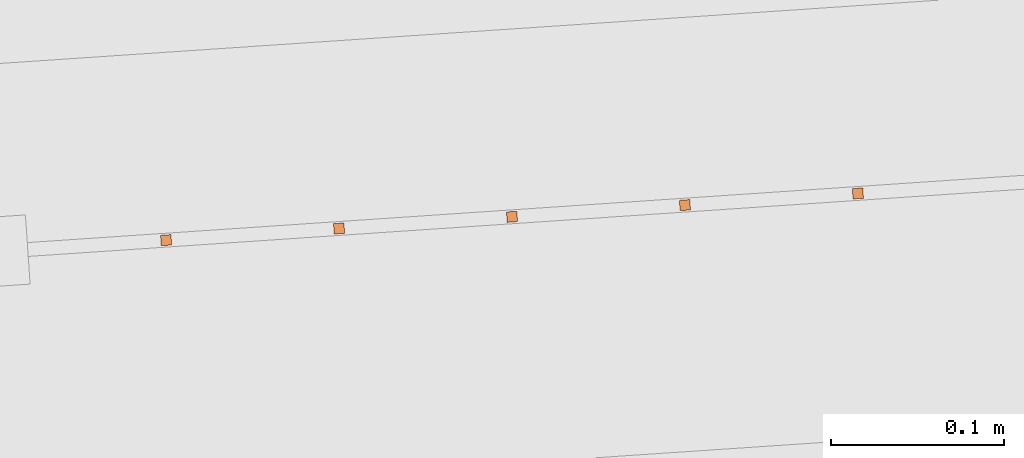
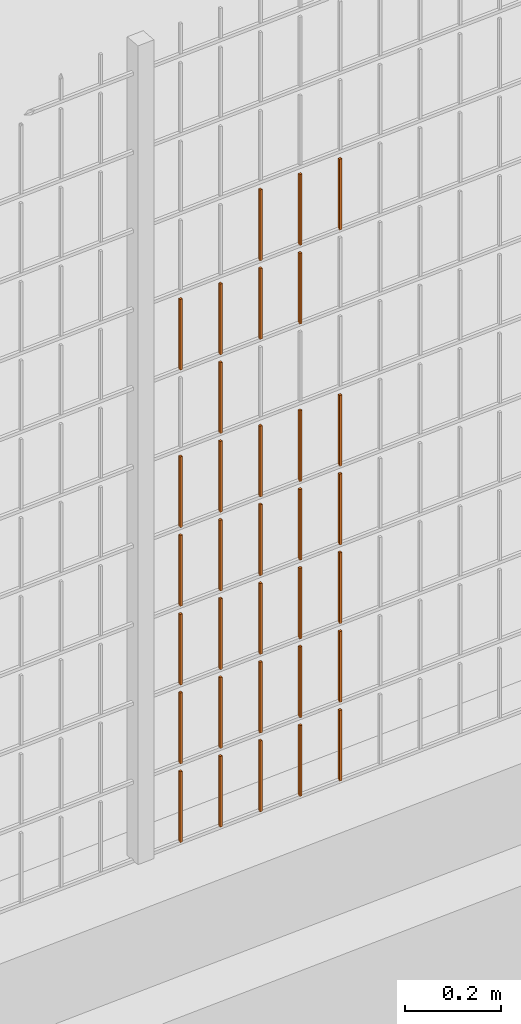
# One storey, part 283 of 1809: 33 proxies, 1 element without a shape of its own.
"""IFC2X3 building model written with IfcOpenShell, lengths in millimetres."""

from ifc_helpers import new_model, entity, si_unit, converted_unit, derived_unit, money_unit, direction, frame, origin_with_axes, place, context, subcontext, project, spatial, faceted_brep, source, transform, mapped, material, type_object, element, aggregate, save


model = new_model("IFC2X3")

# Units and contexts
model_context = context("Model", 3, precision=0.01, world=origin_with_axes(), true_north=direction((0.0, 1.0)))
body_context = subcontext(model_context, "Body", "Model", "MODEL_VIEW")
ifc_project = project(units=[si_unit("LENGTHUNIT", "METRE", prefix="MILLI"), si_unit("AREAUNIT", "SQUARE_METRE"), si_unit("VOLUMEUNIT", "CUBIC_METRE"), converted_unit("PLANEANGLEUNIT", "DEGREE", entity("IfcPlaneAngleMeasure", 0.0174532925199), si_unit("PLANEANGLEUNIT", "RADIAN"), dimensions=[0, 0, 0, 0, 0, 0, 0]), si_unit("SOLIDANGLEUNIT", "STERADIAN"), money_unit("EUR"), converted_unit("TIMEUNIT", "Year", entity("IfcTimeMeasure", 31556926.0), si_unit("TIMEUNIT", "SECOND"), dimensions=[0, 0, 1, 0, 0, 0, 0]), si_unit("MASSUNIT", "GRAM", prefix="KILO"), si_unit("THERMODYNAMICTEMPERATUREUNIT", "DEGREE_CELSIUS"), si_unit("LUMINOUSINTENSITYUNIT", "LUMEN"), si_unit("ENERGYUNIT", "JOULE", prefix="MEGA"), derived_unit("THERMALCONDUCTANCEUNIT", [(si_unit("POWERUNIT", "WATT"), 1), (si_unit("LENGTHUNIT", "METRE"), -1), (si_unit("THERMODYNAMICTEMPERATUREUNIT", "KELVIN"), -1)]), derived_unit("SPECIFICHEATCAPACITYUNIT", [(si_unit("ENERGYUNIT", "JOULE"), 1), (si_unit("MASSUNIT", "GRAM", prefix="KILO"), -1), (si_unit("THERMODYNAMICTEMPERATUREUNIT", "KELVIN"), -1)]), derived_unit("MASSDENSITYUNIT", [(si_unit("MASSUNIT", "GRAM", prefix="KILO"), 1), (si_unit("VOLUMEUNIT", "CUBIC_METRE"), -1)])], contexts=[model_context])

# Site, building, storey
site_placement = place(None, origin_with_axes())
site = spatial("IfcSite", under=ifc_project, at=site_placement, Name="Politse- ja Piirivalveameti ning Päästeameti ühishoone", CompositionType="ELEMENT")
building_placement = place(site_placement, origin_with_axes())
building = spatial("IfcBuilding", under=site, at=building_placement, Name="Politse- ja Piirivalveameti ning Päästeameti ühishoone", CompositionType="ELEMENT")
storey_placement = place(building_placement, origin_with_axes())
storey = spatial("IfcBuildingStorey", under=building, at=storey_placement, Name="Esimene korrus", CompositionType="ELEMENT", Elevation=0.0)

# Proxies
building_element_proxy_type_1 = type_object("IfcBuildingElementProxyType", Name="Railing Type", PredefinedType="NOTDEFINED")
proxy_1_placement = place(storey_placement, frame((89252.001212, -29183.4766571, 203.661247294), z_axis=(0.0, 0.0, 1.0), x_axis=(1.0, 0.0, 0.0)))
proxy_1 = element("IfcBuildingElementProxy", 1, at=proxy_1_placement, inside=storey, type_object=building_element_proxy_type_1, Name="PIIRDEAED")
ifc_material = material(Name="ET-03_Raud")
building_element_proxy_type_2 = type_object("IfcBuildingElementProxyType", Name="IfcBuildingElementProxy", PredefinedType="NOTDEFINED")
shared_shape_1 = source(origin_with_axes(), body_context, "Body", "Brep", [
    faceted_brep([(3.0, 3.0, -0.000752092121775), (-3.0, 3.0, -0.000752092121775), (-3.0, 3.0, 179.99926046), (3.0, 3.0, 179.99926046), (3.0, -3.0, 0.000752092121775), (-3.0, -3.0, 0.000752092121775), (-3.0, -3.0, 180.000764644), (3.0, -3.0, 180.000764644)], [[[0, 1, 2, 3]], [[0, 4, 5, 1]], [[1, 5, 6, 2]], [[3, 2, 6, 7]], [[4, 0, 3, 7]], [[5, 4, 7, 6]]]),
])
proxy_2_placement = place(proxy_1_placement, frame((-49214.5452357, -20622.0315633, 214.868314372), z_axis=(0.0, 0.0, 1.0), x_axis=(1.0, 0.0, 0.0)))
proxy_2 = element("IfcBuildingElementProxy", 2, at=proxy_2_placement, type_object=building_element_proxy_type_2, material=ifc_material, Name="BALUSTER - 001", context=body_context, shape_type="MappedRepresentation", body=[
    mapped(shared_shape_1, transform((0.0, 0.0, 0.0), x_axis=(-0.0673926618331, 0.997726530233, 0.0), y_axis=(-0.997726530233, -0.0673926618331, 0.0), z_axis=(0.0, 0.0, 1.0))),
])
proxy_3_placement = place(proxy_1_placement, frame((-49214.5452357, -20622.0315633, 414.868314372), z_axis=(0.0, 0.0, 1.0), x_axis=(1.0, 0.0, 0.0)))
proxy_3 = element("IfcBuildingElementProxy", 3, at=proxy_3_placement, type_object=building_element_proxy_type_2, material=ifc_material, Name="BALUSTER - 001", context=body_context, shape_type="MappedRepresentation", body=[
    mapped(shared_shape_1, transform((0.0, 0.0, 0.0), x_axis=(-0.0673926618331, 0.997726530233, 0.0), y_axis=(-0.997726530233, -0.0673926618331, 0.0), z_axis=(0.0, 0.0, 1.0))),
])
shared_shape_2 = source(origin_with_axes(), body_context, "Body", "Brep", [
    faceted_brep([(3.0, 3.0, -0.000752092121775), (-3.0, 3.0, -0.000752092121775), (-3.0, 3.0, 179.99926046), (3.0, 3.0, 179.99926046), (3.0, -3.0, 0.000752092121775), (-3.0, -3.0, 0.000752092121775), (-3.0, -3.0, 180.000764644), (3.0, -3.0, 180.000764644)], [[[0, 1, 2, 3]], [[0, 4, 5, 1]], [[1, 5, 6, 2]], [[3, 2, 6, 7]], [[4, 0, 3, 7]], [[5, 4, 7, 6]]]),
])
proxy_4_placement = place(proxy_1_placement, frame((-49214.5452357, -20622.0315633, 614.868314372), z_axis=(0.0, 0.0, 1.0), x_axis=(1.0, 0.0, 0.0)))
proxy_4 = element("IfcBuildingElementProxy", 4, at=proxy_4_placement, type_object=building_element_proxy_type_2, material=ifc_material, Name="BALUSTER - 001", context=body_context, shape_type="MappedRepresentation", body=[
    mapped(shared_shape_2, transform((0.0, 0.0, 0.0), x_axis=(-0.0673926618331, 0.997726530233, 0.0), y_axis=(-0.997726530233, -0.0673926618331, 0.0), z_axis=(0.0, 0.0, 1.0))),
])
proxy_5_placement = place(proxy_1_placement, frame((-49214.5452357, -20622.0315633, 814.868314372), z_axis=(0.0, 0.0, 1.0), x_axis=(1.0, 0.0, 0.0)))
proxy_5 = element("IfcBuildingElementProxy", 5, at=proxy_5_placement, type_object=building_element_proxy_type_2, material=ifc_material, Name="BALUSTER - 001", context=body_context, shape_type="MappedRepresentation", body=[
    mapped(shared_shape_2, transform((0.0, 0.0, 0.0), x_axis=(-0.0673926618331, 0.997726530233, 0.0), y_axis=(-0.997726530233, -0.0673926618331, 0.0), z_axis=(0.0, 0.0, 1.0))),
])
shared_shape_3 = source(origin_with_axes(), body_context, "Body", "Brep", [
    faceted_brep([(3.0, 3.0, -0.000752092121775), (-3.0, 3.0, -0.000752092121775), (-3.0, 3.0, 179.99926046), (3.0, 3.0, 179.99926046), (3.0, -3.0, 0.000752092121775), (-3.0, -3.0, 0.000752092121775), (-3.0, -3.0, 180.000764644), (3.0, -3.0, 180.000764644)], [[[0, 1, 2, 3]], [[0, 4, 5, 1]], [[1, 5, 6, 2]], [[3, 2, 6, 7]], [[4, 0, 3, 7]], [[5, 4, 7, 6]]]),
])
proxy_6_placement = place(proxy_1_placement, frame((-49613.6358478, -20648.988628, 1214.76803542), z_axis=(0.0, 0.0, 1.0), x_axis=(1.0, 0.0, 0.0)))
proxy_6 = element("IfcBuildingElementProxy", 6, at=proxy_6_placement, type_object=building_element_proxy_type_2, material=ifc_material, Name="BALUSTER - 001", context=body_context, shape_type="MappedRepresentation", body=[
    mapped(shared_shape_3, transform((0.0, 0.0, 0.0), x_axis=(-0.0673926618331, 0.997726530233, 0.0), y_axis=(-0.997726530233, -0.0673926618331, 0.0), z_axis=(0.0, 0.0, 1.0))),
])
shared_shape_4 = source(origin_with_axes(), body_context, "Body", "Brep", [
    faceted_brep([(3.0, 3.0, -0.000752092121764), (-3.0, 3.0, -0.000752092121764), (-3.0, 3.0, 179.99926046), (3.0, 3.0, 179.99926046), (3.0, -3.0, 0.000752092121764), (-3.0, -3.0, 0.000752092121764), (-3.0, -3.0, 180.000764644), (3.0, -3.0, 180.000764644)], [[[0, 1, 2, 3]], [[0, 4, 5, 1]], [[1, 5, 6, 2]], [[3, 2, 6, 7]], [[4, 0, 3, 7]], [[5, 4, 7, 6]]]),
])
proxy_7_placement = place(proxy_1_placement, frame((-49414.0905417, -20635.5100956, 814.818174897), z_axis=(0.0, 0.0, 1.0), x_axis=(1.0, 0.0, 0.0)))
proxy_7 = element("IfcBuildingElementProxy", 7, at=proxy_7_placement, type_object=building_element_proxy_type_2, material=ifc_material, Name="BALUSTER - 001", context=body_context, shape_type="MappedRepresentation", body=[
    mapped(shared_shape_4, transform((0.0, 0.0, 0.0), x_axis=(-0.0673926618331, 0.997726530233, 0.0), y_axis=(-0.997726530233, -0.0673926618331, 0.0), z_axis=(0.0, 0.0, 1.0))),
])
shared_shape_5 = source(origin_with_axes(), body_context, "Body", "Brep", [
    faceted_brep([(3.0, 3.0, -0.000752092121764), (-3.0, 3.0, -0.000752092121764), (-3.0, 3.0, 179.99926046), (3.0, 3.0, 179.99926046), (3.0, -3.0, 0.000752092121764), (-3.0, -3.0, 0.000752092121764), (-3.0, -3.0, 180.000764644), (3.0, -3.0, 180.000764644)], [[[0, 1, 2, 3]], [[0, 4, 5, 1]], [[1, 5, 6, 2]], [[3, 2, 6, 7]], [[4, 0, 3, 7]], [[5, 4, 7, 6]]]),
])
proxy_8_placement = place(proxy_1_placement, frame((-49414.0905417, -20635.5100956, 414.818174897), z_axis=(0.0, 0.0, 1.0), x_axis=(1.0, 0.0, 0.0)))
proxy_8 = element("IfcBuildingElementProxy", 8, at=proxy_8_placement, type_object=building_element_proxy_type_2, material=ifc_material, Name="BALUSTER - 001", context=body_context, shape_type="MappedRepresentation", body=[
    mapped(shared_shape_5, transform((0.0, 0.0, 0.0), x_axis=(-0.0673926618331, 0.997726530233, 0.0), y_axis=(-0.997726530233, -0.0673926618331, 0.0), z_axis=(0.0, 0.0, 1.0))),
])
shared_shape_6 = source(origin_with_axes(), body_context, "Body", "Brep", [
    faceted_brep([(3.0, 3.0, -0.000752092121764), (-3.0, 3.0, -0.000752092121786), (-3.0, 3.0, 179.99926046), (3.0, 3.0, 179.99926046), (3.0, -3.0, 0.000752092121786), (-3.0, -3.0, 0.000752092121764), (-3.0, -3.0, 180.000764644), (3.0, -3.0, 180.000764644)], [[[0, 1, 2, 3]], [[0, 4, 5, 1]], [[1, 5, 6, 2]], [[3, 2, 6, 7]], [[4, 0, 3, 7]], [[5, 4, 7, 6]]]),
])
proxy_9_placement = place(proxy_1_placement, frame((-49314.3178887, -20628.7708295, 214.843244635), z_axis=(0.0, 0.0, 1.0), x_axis=(1.0, 0.0, 0.0)))
proxy_9 = element("IfcBuildingElementProxy", 9, at=proxy_9_placement, type_object=building_element_proxy_type_2, material=ifc_material, Name="BALUSTER - 001", context=body_context, shape_type="MappedRepresentation", body=[
    mapped(shared_shape_6, transform((0.0, 0.0, 0.0), x_axis=(-0.0673926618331, 0.997726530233, 0.0), y_axis=(-0.997726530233, -0.0673926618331, 0.0), z_axis=(0.0, 0.0, 1.0))),
])
proxy_10_placement = place(proxy_1_placement, frame((-49314.3178887, -20628.7708295, 614.843244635), z_axis=(0.0, 0.0, 1.0), x_axis=(1.0, 0.0, 0.0)))
proxy_10 = element("IfcBuildingElementProxy", 10, at=proxy_10_placement, type_object=building_element_proxy_type_2, material=ifc_material, Name="BALUSTER - 001", context=body_context, shape_type="MappedRepresentation", body=[
    mapped(shared_shape_6, transform((0.0, 0.0, 0.0), x_axis=(-0.0673926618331, 0.997726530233, 0.0), y_axis=(-0.997726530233, -0.0673926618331, 0.0), z_axis=(0.0, 0.0, 1.0))),
])
shared_shape_7 = source(origin_with_axes(), body_context, "Body", "Brep", [
    faceted_brep([(3.0, 3.0, -0.000752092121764), (-3.0, 3.0, -0.000752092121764), (-3.0, 3.0, 179.99926046), (3.0, 3.0, 179.99926046), (3.0, -3.0, 0.000752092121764), (-3.0, -3.0, 0.000752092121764), (-3.0, -3.0, 180.000764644), (3.0, -3.0, 180.000764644)], [[[0, 1, 2, 3]], [[0, 4, 5, 1]], [[1, 5, 6, 2]], [[3, 2, 6, 7]], [[4, 0, 3, 7]], [[5, 4, 7, 6]]]),
])
proxy_11_placement = place(proxy_1_placement, frame((-49414.0905417, -20635.5100956, 1214.8181749), z_axis=(0.0, 0.0, 1.0), x_axis=(1.0, 0.0, 0.0)))
proxy_11 = element("IfcBuildingElementProxy", 11, at=proxy_11_placement, type_object=building_element_proxy_type_2, material=ifc_material, Name="BALUSTER - 001", context=body_context, shape_type="MappedRepresentation", body=[
    mapped(shared_shape_7, transform((0.0, 0.0, 0.0), x_axis=(-0.0673926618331, 0.997726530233, 0.0), y_axis=(-0.997726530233, -0.0673926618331, 0.0), z_axis=(0.0, 0.0, 1.0))),
])
shared_shape_8 = source(origin_with_axes(), body_context, "Body", "Brep", [
    faceted_brep([(3.0, 3.0, -0.000752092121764), (-3.0, 3.0, -0.000752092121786), (-3.0, 3.0, 179.99926046), (3.0, 3.0, 179.99926046), (3.0, -3.0, 0.000752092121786), (-3.0, -3.0, 0.000752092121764), (-3.0, -3.0, 180.000764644), (3.0, -3.0, 180.000764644)], [[[0, 1, 2, 3]], [[0, 4, 5, 1]], [[1, 5, 6, 2]], [[3, 2, 6, 7]], [[4, 0, 3, 7]], [[5, 4, 7, 6]]]),
])
proxy_12_placement = place(proxy_1_placement, frame((-49314.3178887, -20628.7708295, 814.843244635), z_axis=(0.0, 0.0, 1.0), x_axis=(1.0, 0.0, 0.0)))
proxy_12 = element("IfcBuildingElementProxy", 12, at=proxy_12_placement, type_object=building_element_proxy_type_2, material=ifc_material, Name="BALUSTER - 001", context=body_context, shape_type="MappedRepresentation", body=[
    mapped(shared_shape_8, transform((0.0, 0.0, 0.0), x_axis=(-0.0673926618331, 0.997726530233, 0.0), y_axis=(-0.997726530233, -0.0673926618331, 0.0), z_axis=(0.0, 0.0, 1.0))),
])
shared_shape_9 = source(origin_with_axes(), body_context, "Body", "Brep", [
    faceted_brep([(3.0, 3.0, -0.000752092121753), (-3.0, 3.0, -0.000752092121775), (-3.0, 3.0, 179.99926046), (3.0, 3.0, 179.99926046), (3.0, -3.0, 0.000752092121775), (-3.0, -3.0, 0.000752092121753), (-3.0, -3.0, 180.000764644), (3.0, -3.0, 180.000764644)], [[[0, 1, 2, 3]], [[0, 4, 5, 1]], [[1, 5, 6, 2]], [[3, 2, 6, 7]], [[4, 0, 3, 7]], [[5, 4, 7, 6]]]),
])
proxy_13_placement = place(proxy_1_placement, frame((-49314.3178887, -20628.7708295, 1214.84324463), z_axis=(0.0, 0.0, 1.0), x_axis=(1.0, 0.0, 0.0)))
proxy_13 = element("IfcBuildingElementProxy", 13, at=proxy_13_placement, type_object=building_element_proxy_type_2, material=ifc_material, Name="BALUSTER - 001", context=body_context, shape_type="MappedRepresentation", body=[
    mapped(shared_shape_9, transform((0.0, 0.0, 0.0), x_axis=(-0.0673926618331, 0.997726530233, 0.0), y_axis=(-0.997726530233, -0.0673926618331, 0.0), z_axis=(0.0, 0.0, 1.0))),
])
shared_shape_10 = source(origin_with_axes(), body_context, "Body", "Brep", [
    faceted_brep([(3.0, 3.0, -0.000752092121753), (-3.0, 3.0, -0.000752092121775), (-3.0, 3.0, 179.99926046), (3.0, 3.0, 179.99926046), (3.0, -3.0, 0.000752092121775), (-3.0, -3.0, 0.000752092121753), (-3.0, -3.0, 180.000764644), (3.0, -3.0, 180.000764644)], [[[0, 1, 2, 3]], [[0, 4, 5, 1]], [[1, 5, 6, 2]], [[3, 2, 6, 7]], [[4, 0, 3, 7]], [[5, 4, 7, 6]]]),
])
proxy_14_placement = place(proxy_1_placement, frame((-49613.6358478, -20648.988628, 14.7680354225), z_axis=(0.0, 0.0, 1.0), x_axis=(1.0, 0.0, 0.0)))
proxy_14 = element("IfcBuildingElementProxy", 14, at=proxy_14_placement, type_object=building_element_proxy_type_2, material=ifc_material, Name="BALUSTER - 001", context=body_context, shape_type="MappedRepresentation", body=[
    mapped(shared_shape_10, transform((0.0, 0.0, 0.0), x_axis=(-0.0673926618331, 0.997726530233, 0.0), y_axis=(-0.997726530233, -0.0673926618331, 0.0), z_axis=(0.0, 0.0, 1.0))),
])
proxy_15_placement = place(proxy_1_placement, frame((-49613.6358478, -20648.988628, 214.768035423), z_axis=(0.0, 0.0, 1.0), x_axis=(1.0, 0.0, 0.0)))
proxy_15 = element("IfcBuildingElementProxy", 15, at=proxy_15_placement, type_object=building_element_proxy_type_2, material=ifc_material, Name="BALUSTER - 001", context=body_context, shape_type="MappedRepresentation", body=[
    mapped(shared_shape_10, transform((0.0, 0.0, 0.0), x_axis=(-0.0673926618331, 0.997726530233, 0.0), y_axis=(-0.997726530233, -0.0673926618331, 0.0), z_axis=(0.0, 0.0, 1.0))),
])
shared_shape_11 = source(origin_with_axes(), body_context, "Body", "Brep", [
    faceted_brep([(3.0, 3.0, -0.000752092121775), (-3.0, 3.0, -0.000752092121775), (-3.0, 3.0, 179.99926046), (3.0, 3.0, 179.99926046), (3.0, -3.0, 0.000752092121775), (-3.0, -3.0, 0.000752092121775), (-3.0, -3.0, 180.000764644), (3.0, -3.0, 180.000764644)], [[[0, 1, 2, 3]], [[0, 4, 5, 1]], [[1, 5, 6, 2]], [[3, 2, 6, 7]], [[4, 0, 3, 7]], [[5, 4, 7, 6]]]),
])
proxy_16_placement = place(proxy_1_placement, frame((-49214.5452357, -20622.0315633, 14.8683143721), z_axis=(0.0, 0.0, 1.0), x_axis=(1.0, 0.0, 0.0)))
proxy_16 = element("IfcBuildingElementProxy", 16, at=proxy_16_placement, type_object=building_element_proxy_type_2, material=ifc_material, Name="BALUSTER - 001", context=body_context, shape_type="MappedRepresentation", body=[
    mapped(shared_shape_11, transform((0.0, 0.0, 0.0), x_axis=(-0.0673926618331, 0.997726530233, 0.0), y_axis=(-0.997726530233, -0.0673926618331, 0.0), z_axis=(0.0, 0.0, 1.0))),
])
shared_shape_12 = source(origin_with_axes(), body_context, "Body", "Brep", [
    faceted_brep([(3.0, 3.0, -0.000752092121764), (-3.0, 3.0, -0.000752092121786), (-3.0, 3.0, 179.99926046), (3.0, 3.0, 179.99926046), (3.0, -3.0, 0.000752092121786), (-3.0, -3.0, 0.000752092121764), (-3.0, -3.0, 180.000764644), (3.0, -3.0, 180.000764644)], [[[0, 1, 2, 3]], [[0, 4, 5, 1]], [[1, 5, 6, 2]], [[3, 2, 6, 7]], [[4, 0, 3, 7]], [[5, 4, 7, 6]]]),
])
proxy_17_placement = place(proxy_1_placement, frame((-49314.3178887, -20628.7708295, 414.843244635), z_axis=(0.0, 0.0, 1.0), x_axis=(1.0, 0.0, 0.0)))
proxy_17 = element("IfcBuildingElementProxy", 17, at=proxy_17_placement, type_object=building_element_proxy_type_2, material=ifc_material, Name="BALUSTER - 001", context=body_context, shape_type="MappedRepresentation", body=[
    mapped(shared_shape_12, transform((0.0, 0.0, 0.0), x_axis=(-0.0673926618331, 0.997726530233, 0.0), y_axis=(-0.997726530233, -0.0673926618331, 0.0), z_axis=(0.0, 0.0, 1.0))),
])
shared_shape_13 = source(origin_with_axes(), body_context, "Body", "Brep", [
    faceted_brep([(3.0, 3.0, -0.000752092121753), (-3.0, 3.0, -0.000752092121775), (-3.0, 3.0, 179.99926046), (3.0, 3.0, 179.99926046), (3.0, -3.0, 0.000752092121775), (-3.0, -3.0, 0.000752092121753), (-3.0, -3.0, 180.000764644), (3.0, -3.0, 180.000764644)], [[[0, 1, 2, 3]], [[0, 4, 5, 1]], [[1, 5, 6, 2]], [[3, 2, 6, 7]], [[4, 0, 3, 7]], [[5, 4, 7, 6]]]),
])
proxy_18_placement = place(proxy_1_placement, frame((-49613.6358478, -20648.988628, 414.768035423), z_axis=(0.0, 0.0, 1.0), x_axis=(1.0, 0.0, 0.0)))
proxy_18 = element("IfcBuildingElementProxy", 18, at=proxy_18_placement, type_object=building_element_proxy_type_2, material=ifc_material, Name="BALUSTER - 001", context=body_context, shape_type="MappedRepresentation", body=[
    mapped(shared_shape_13, transform((0.0, 0.0, 0.0), x_axis=(-0.0673926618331, 0.997726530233, 0.0), y_axis=(-0.997726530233, -0.0673926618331, 0.0), z_axis=(0.0, 0.0, 1.0))),
])
shared_shape_14 = source(origin_with_axes(), body_context, "Body", "Brep", [
    faceted_brep([(3.0, 3.0, -0.000752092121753), (-3.0, 3.0, -0.000752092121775), (-3.0, 3.0, 179.99926046), (3.0, 3.0, 179.99926046), (3.0, -3.0, 0.000752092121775), (-3.0, -3.0, 0.000752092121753), (-3.0, -3.0, 180.000764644), (3.0, -3.0, 180.000764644)], [[[0, 1, 2, 3]], [[0, 4, 5, 1]], [[1, 5, 6, 2]], [[3, 2, 6, 7]], [[4, 0, 3, 7]], [[5, 4, 7, 6]]]),
])
proxy_19_placement = place(proxy_1_placement, frame((-49513.8631947, -20642.2493618, 814.79310516), z_axis=(0.0, 0.0, 1.0), x_axis=(1.0, 0.0, 0.0)))
proxy_19 = element("IfcBuildingElementProxy", 19, at=proxy_19_placement, type_object=building_element_proxy_type_2, material=ifc_material, Name="BALUSTER - 001", context=body_context, shape_type="MappedRepresentation", body=[
    mapped(shared_shape_14, transform((0.0, 0.0, 0.0), x_axis=(-0.0673926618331, 0.997726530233, 0.0), y_axis=(-0.997726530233, -0.0673926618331, 0.0), z_axis=(0.0, 0.0, 1.0))),
])
proxy_20_placement = place(proxy_1_placement, frame((-49513.8631947, -20642.2493618, 1214.79310516), z_axis=(0.0, 0.0, 1.0), x_axis=(1.0, 0.0, 0.0)))
proxy_20 = element("IfcBuildingElementProxy", 20, at=proxy_20_placement, type_object=building_element_proxy_type_2, material=ifc_material, Name="BALUSTER - 001", context=body_context, shape_type="MappedRepresentation", body=[
    mapped(shared_shape_14, transform((0.0, 0.0, 0.0), x_axis=(-0.0673926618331, 0.997726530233, 0.0), y_axis=(-0.997726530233, -0.0673926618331, 0.0), z_axis=(0.0, 0.0, 1.0))),
])
shared_shape_15 = source(origin_with_axes(), body_context, "Body", "Brep", [
    faceted_brep([(3.0, 3.0, -0.000752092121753), (-3.0, 3.0, -0.000752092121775), (-3.0, 3.0, 179.99926046), (3.0, 3.0, 179.99926046), (3.0, -3.0, 0.000752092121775), (-3.0, -3.0, 0.000752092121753), (-3.0, -3.0, 180.000764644), (3.0, -3.0, 180.000764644)], [[[0, 1, 2, 3]], [[0, 4, 5, 1]], [[1, 5, 6, 2]], [[3, 2, 6, 7]], [[4, 0, 3, 7]], [[5, 4, 7, 6]]]),
])
proxy_21_placement = place(proxy_1_placement, frame((-49613.6358478, -20648.988628, 814.768035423), z_axis=(0.0, 0.0, 1.0), x_axis=(1.0, 0.0, 0.0)))
proxy_21 = element("IfcBuildingElementProxy", 21, at=proxy_21_placement, type_object=building_element_proxy_type_2, material=ifc_material, Name="BALUSTER - 001", context=body_context, shape_type="MappedRepresentation", body=[
    mapped(shared_shape_15, transform((0.0, 0.0, 0.0), x_axis=(-0.0673926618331, 0.997726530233, 0.0), y_axis=(-0.997726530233, -0.0673926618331, 0.0), z_axis=(0.0, 0.0, 1.0))),
])
shared_shape_16 = source(origin_with_axes(), body_context, "Body", "Brep", [
    faceted_brep([(3.0, 3.0, -0.000752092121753), (-3.0, 3.0, -0.000752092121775), (-3.0, 3.0, 179.99926046), (3.0, 3.0, 179.99926046), (3.0, -3.0, 0.000752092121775), (-3.0, -3.0, 0.000752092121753), (-3.0, -3.0, 180.000764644), (3.0, -3.0, 180.000764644)], [[[0, 1, 2, 3]], [[0, 4, 5, 1]], [[1, 5, 6, 2]], [[3, 2, 6, 7]], [[4, 0, 3, 7]], [[5, 4, 7, 6]]]),
])
proxy_22_placement = place(proxy_1_placement, frame((-49314.3178887, -20628.7708295, 1414.84324463), z_axis=(0.0, 0.0, 1.0), x_axis=(1.0, 0.0, 0.0)))
proxy_22 = element("IfcBuildingElementProxy", 22, at=proxy_22_placement, type_object=building_element_proxy_type_2, material=ifc_material, Name="BALUSTER - 001", context=body_context, shape_type="MappedRepresentation", body=[
    mapped(shared_shape_16, transform((0.0, 0.0, 0.0), x_axis=(-0.0673926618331, 0.997726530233, 0.0), y_axis=(-0.997726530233, -0.0673926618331, 0.0), z_axis=(0.0, 0.0, 1.0))),
])
shared_shape_17 = source(origin_with_axes(), body_context, "Body", "Brep", [
    faceted_brep([(3.0, 3.0, -0.000752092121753), (-3.0, 3.0, -0.000752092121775), (-3.0, 3.0, 179.99926046), (3.0, 3.0, 179.99926046), (3.0, -3.0, 0.000752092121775), (-3.0, -3.0, 0.000752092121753), (-3.0, -3.0, 180.000764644), (3.0, -3.0, 180.000764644)], [[[0, 1, 2, 3]], [[0, 4, 5, 1]], [[1, 5, 6, 2]], [[3, 2, 6, 7]], [[4, 0, 3, 7]], [[5, 4, 7, 6]]]),
])
proxy_23_placement = place(proxy_1_placement, frame((-49613.6358478, -20648.988628, 614.768035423), z_axis=(0.0, 0.0, 1.0), x_axis=(1.0, 0.0, 0.0)))
proxy_23 = element("IfcBuildingElementProxy", 23, at=proxy_23_placement, type_object=building_element_proxy_type_2, material=ifc_material, Name="BALUSTER - 001", context=body_context, shape_type="MappedRepresentation", body=[
    mapped(shared_shape_17, transform((0.0, 0.0, 0.0), x_axis=(-0.0673926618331, 0.997726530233, 0.0), y_axis=(-0.997726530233, -0.0673926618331, 0.0), z_axis=(0.0, 0.0, 1.0))),
])
shared_shape_18 = source(origin_with_axes(), body_context, "Body", "Brep", [
    faceted_brep([(3.0, 3.0, -0.000752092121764), (-3.0, 3.0, -0.000752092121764), (-3.0, 3.0, 179.99926046), (3.0, 3.0, 179.99926046), (3.0, -3.0, 0.000752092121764), (-3.0, -3.0, 0.000752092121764), (-3.0, -3.0, 180.000764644), (3.0, -3.0, 180.000764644)], [[[0, 1, 2, 3]], [[0, 4, 5, 1]], [[1, 5, 6, 2]], [[3, 2, 6, 7]], [[4, 0, 3, 7]], [[5, 4, 7, 6]]]),
])
proxy_24_placement = place(proxy_1_placement, frame((-49414.0905417, -20635.5100956, 14.8181748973), z_axis=(0.0, 0.0, 1.0), x_axis=(1.0, 0.0, 0.0)))
proxy_24 = element("IfcBuildingElementProxy", 24, at=proxy_24_placement, type_object=building_element_proxy_type_2, material=ifc_material, Name="BALUSTER - 001", context=body_context, shape_type="MappedRepresentation", body=[
    mapped(shared_shape_18, transform((0.0, 0.0, 0.0), x_axis=(-0.0673926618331, 0.997726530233, 0.0), y_axis=(-0.997726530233, -0.0673926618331, 0.0), z_axis=(0.0, 0.0, 1.0))),
])
shared_shape_19 = source(origin_with_axes(), body_context, "Body", "Brep", [
    faceted_brep([(3.0, 3.0, -0.000752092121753), (-3.0, 3.0, -0.000752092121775), (-3.0, 3.0, 179.99926046), (3.0, 3.0, 179.99926046), (3.0, -3.0, 0.000752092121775), (-3.0, -3.0, 0.000752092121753), (-3.0, -3.0, 180.000764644), (3.0, -3.0, 180.000764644)], [[[0, 1, 2, 3]], [[0, 4, 5, 1]], [[1, 5, 6, 2]], [[3, 2, 6, 7]], [[4, 0, 3, 7]], [[5, 4, 7, 6]]]),
])
proxy_25_placement = place(proxy_1_placement, frame((-49513.8631947, -20642.2493618, 14.7931051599), z_axis=(0.0, 0.0, 1.0), x_axis=(1.0, 0.0, 0.0)))
proxy_25 = element("IfcBuildingElementProxy", 25, at=proxy_25_placement, type_object=building_element_proxy_type_2, material=ifc_material, Name="BALUSTER - 001", context=body_context, shape_type="MappedRepresentation", body=[
    mapped(shared_shape_19, transform((0.0, 0.0, 0.0), x_axis=(-0.0673926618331, 0.997726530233, 0.0), y_axis=(-0.997726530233, -0.0673926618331, 0.0), z_axis=(0.0, 0.0, 1.0))),
])
shared_shape_20 = source(origin_with_axes(), body_context, "Body", "Brep", [
    faceted_brep([(3.0, 3.0, -0.000752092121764), (-3.0, 3.0, -0.000752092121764), (-3.0, 3.0, 179.99926046), (3.0, 3.0, 179.99926046), (3.0, -3.0, 0.000752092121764), (-3.0, -3.0, 0.000752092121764), (-3.0, -3.0, 180.000764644), (3.0, -3.0, 180.000764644)], [[[0, 1, 2, 3]], [[0, 4, 5, 1]], [[1, 5, 6, 2]], [[3, 2, 6, 7]], [[4, 0, 3, 7]], [[5, 4, 7, 6]]]),
])
proxy_26_placement = place(proxy_1_placement, frame((-49414.0905417, -20635.5100956, 214.818174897), z_axis=(0.0, 0.0, 1.0), x_axis=(1.0, 0.0, 0.0)))
proxy_26 = element("IfcBuildingElementProxy", 26, at=proxy_26_placement, type_object=building_element_proxy_type_2, material=ifc_material, Name="BALUSTER - 001", context=body_context, shape_type="MappedRepresentation", body=[
    mapped(shared_shape_20, transform((0.0, 0.0, 0.0), x_axis=(-0.0673926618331, 0.997726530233, 0.0), y_axis=(-0.997726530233, -0.0673926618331, 0.0), z_axis=(0.0, 0.0, 1.0))),
])
shared_shape_21 = source(origin_with_axes(), body_context, "Body", "Brep", [
    faceted_brep([(3.0, 3.0, -0.000752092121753), (-3.0, 3.0, -0.000752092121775), (-3.0, 3.0, 179.99926046), (3.0, 3.0, 179.99926046), (3.0, -3.0, 0.000752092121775), (-3.0, -3.0, 0.000752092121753), (-3.0, -3.0, 180.000764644), (3.0, -3.0, 180.000764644)], [[[0, 1, 2, 3]], [[0, 4, 5, 1]], [[1, 5, 6, 2]], [[3, 2, 6, 7]], [[4, 0, 3, 7]], [[5, 4, 7, 6]]]),
])
proxy_27_placement = place(proxy_1_placement, frame((-49513.8631947, -20642.2493618, 414.79310516), z_axis=(0.0, 0.0, 1.0), x_axis=(1.0, 0.0, 0.0)))
proxy_27 = element("IfcBuildingElementProxy", 27, at=proxy_27_placement, type_object=building_element_proxy_type_2, material=ifc_material, Name="BALUSTER - 001", context=body_context, shape_type="MappedRepresentation", body=[
    mapped(shared_shape_21, transform((0.0, 0.0, 0.0), x_axis=(-0.0673926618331, 0.997726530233, 0.0), y_axis=(-0.997726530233, -0.0673926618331, 0.0), z_axis=(0.0, 0.0, 1.0))),
])
proxy_28_placement = place(proxy_1_placement, frame((-49513.8631947, -20642.2493618, 614.79310516), z_axis=(0.0, 0.0, 1.0), x_axis=(1.0, 0.0, 0.0)))
proxy_28 = element("IfcBuildingElementProxy", 28, at=proxy_28_placement, type_object=building_element_proxy_type_2, material=ifc_material, Name="BALUSTER - 001", context=body_context, shape_type="MappedRepresentation", body=[
    mapped(shared_shape_21, transform((0.0, 0.0, 0.0), x_axis=(-0.0673926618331, 0.997726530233, 0.0), y_axis=(-0.997726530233, -0.0673926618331, 0.0), z_axis=(0.0, 0.0, 1.0))),
])
shared_shape_22 = source(origin_with_axes(), body_context, "Body", "Brep", [
    faceted_brep([(3.0, 3.0, -0.000752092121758), (-3.0, 3.0, -0.00075209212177), (-3.00000000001, 3.0, 179.99926046), (2.99999999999, 3.0, 179.99926046), (3.0, -3.0, 0.00075209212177), (-3.0, -3.0, 0.000752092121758), (-3.00000000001, -3.0, 180.000764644), (2.99999999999, -3.0, 180.000764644)], [[[0, 1, 2, 3]], [[0, 4, 5, 1]], [[1, 5, 6, 2]], [[3, 2, 6, 7]], [[4, 0, 3, 7]], [[5, 4, 7, 6]]]),
])
proxy_29_placement = place(proxy_1_placement, frame((-49513.8631947, -20642.2493618, 1014.79310516), z_axis=(0.0, 0.0, 1.0), x_axis=(1.0, 0.0, 0.0)))
proxy_29 = element("IfcBuildingElementProxy", 29, at=proxy_29_placement, type_object=building_element_proxy_type_2, material=ifc_material, Name="BALUSTER - 001", context=body_context, shape_type="MappedRepresentation", body=[
    mapped(shared_shape_22, transform((0.0, 0.0, 0.0), x_axis=(-0.0673926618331, 0.997726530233, 0.0), y_axis=(-0.997726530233, -0.0673926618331, 0.0), z_axis=(0.0, 0.0, 1.0))),
])
shared_shape_23 = source(origin_with_axes(), body_context, "Body", "Brep", [
    faceted_brep([(3.0, 3.0, -0.000752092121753), (-3.0, 3.0, -0.000752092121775), (-3.0, 3.0, 179.99926046), (3.0, 3.0, 179.99926046), (3.0, -3.0, 0.000752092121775), (-3.0, -3.0, 0.000752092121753), (-3.0, -3.0, 180.000764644), (3.0, -3.0, 180.000764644)], [[[0, 1, 2, 3]], [[0, 4, 5, 1]], [[1, 5, 6, 2]], [[3, 2, 6, 7]], [[4, 0, 3, 7]], [[5, 4, 7, 6]]]),
])
proxy_30_placement = place(proxy_1_placement, frame((-49513.8631947, -20642.2493618, 214.79310516), z_axis=(0.0, 0.0, 1.0), x_axis=(1.0, 0.0, 0.0)))
proxy_30 = element("IfcBuildingElementProxy", 30, at=proxy_30_placement, type_object=building_element_proxy_type_2, material=ifc_material, Name="BALUSTER - 001", context=body_context, shape_type="MappedRepresentation", body=[
    mapped(shared_shape_23, transform((0.0, 0.0, 0.0), x_axis=(-0.0673926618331, 0.997726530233, 0.0), y_axis=(-0.997726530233, -0.0673926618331, 0.0), z_axis=(0.0, 0.0, 1.0))),
])
shared_shape_24 = source(origin_with_axes(), body_context, "Body", "Brep", [
    faceted_brep([(3.0, 3.0, -0.000752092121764), (-3.0, 3.0, -0.000752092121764), (-3.0, 3.0, 179.99926046), (3.0, 3.0, 179.99926046), (3.0, -3.0, 0.000752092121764), (-3.0, -3.0, 0.000752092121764), (-3.0, -3.0, 180.000764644), (3.0, -3.0, 180.000764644)], [[[0, 1, 2, 3]], [[0, 4, 5, 1]], [[1, 5, 6, 2]], [[3, 2, 6, 7]], [[4, 0, 3, 7]], [[5, 4, 7, 6]]]),
])
proxy_31_placement = place(proxy_1_placement, frame((-49414.0905417, -20635.5100956, 614.818174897), z_axis=(0.0, 0.0, 1.0), x_axis=(1.0, 0.0, 0.0)))
proxy_31 = element("IfcBuildingElementProxy", 31, at=proxy_31_placement, type_object=building_element_proxy_type_2, material=ifc_material, Name="BALUSTER - 001", context=body_context, shape_type="MappedRepresentation", body=[
    mapped(shared_shape_24, transform((0.0, 0.0, 0.0), x_axis=(-0.0673926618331, 0.997726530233, 0.0), y_axis=(-0.997726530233, -0.0673926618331, 0.0), z_axis=(0.0, 0.0, 1.0))),
])
shared_shape_25 = source(origin_with_axes(), body_context, "Body", "Brep", [
    faceted_brep([(3.0, 3.0, -0.000752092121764), (-3.0, 3.0, -0.000752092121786), (-3.0, 3.0, 179.99926046), (3.0, 3.0, 179.99926046), (3.0, -3.0, 0.000752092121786), (-3.0, -3.0, 0.000752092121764), (-3.0, -3.0, 180.000764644), (3.0, -3.0, 180.000764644)], [[[0, 1, 2, 3]], [[0, 4, 5, 1]], [[1, 5, 6, 2]], [[3, 2, 6, 7]], [[4, 0, 3, 7]], [[5, 4, 7, 6]]]),
])
proxy_32_placement = place(proxy_1_placement, frame((-49314.3178887, -20628.7708295, 14.8432446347), z_axis=(0.0, 0.0, 1.0), x_axis=(1.0, 0.0, 0.0)))
proxy_32 = element("IfcBuildingElementProxy", 32, at=proxy_32_placement, type_object=building_element_proxy_type_2, material=ifc_material, Name="BALUSTER - 001", context=body_context, shape_type="MappedRepresentation", body=[
    mapped(shared_shape_25, transform((0.0, 0.0, 0.0), x_axis=(-0.0673926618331, 0.997726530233, 0.0), y_axis=(-0.997726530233, -0.0673926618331, 0.0), z_axis=(0.0, 0.0, 1.0))),
])
shared_shape_26 = source(origin_with_axes(), body_context, "Body", "Brep", [
    faceted_brep([(3.0, 3.0, -0.000752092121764), (-3.0, 3.0, -0.000752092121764), (-3.0, 3.0, 179.99926046), (3.0, 3.0, 179.99926046), (3.0, -3.0, 0.000752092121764), (-3.0, -3.0, 0.000752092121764), (-3.0, -3.0, 180.000764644), (3.0, -3.0, 180.000764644)], [[[0, 1, 2, 3]], [[0, 4, 5, 1]], [[1, 5, 6, 2]], [[3, 2, 6, 7]], [[4, 0, 3, 7]], [[5, 4, 7, 6]]]),
])
proxy_33_placement = place(proxy_1_placement, frame((-49414.0905417, -20635.5100956, 1414.8181749), z_axis=(0.0, 0.0, 1.0), x_axis=(1.0, 0.0, 0.0)))
proxy_33 = element("IfcBuildingElementProxy", 33, at=proxy_33_placement, type_object=building_element_proxy_type_2, material=ifc_material, Name="BALUSTER - 001", context=body_context, shape_type="MappedRepresentation", body=[
    mapped(shared_shape_26, transform((0.0, 0.0, 0.0), x_axis=(-0.0673926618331, 0.997726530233, 0.0), y_axis=(-0.997726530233, -0.0673926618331, 0.0), z_axis=(0.0, 0.0, 1.0))),
])
shared_shape_27 = source(origin_with_axes(), body_context, "Body", "Brep", [
    faceted_brep([(3.0, 3.0, -0.000752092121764), (-3.0, 3.0, -0.000752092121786), (-3.0, 3.0, 179.99926046), (3.0, 3.0, 179.99926046), (3.0, -3.0, 0.000752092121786), (-3.0, -3.0, 0.000752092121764), (-3.0, -3.0, 180.000764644), (3.0, -3.0, 180.000764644)], [[[0, 1, 2, 3]], [[0, 4, 5, 1]], [[1, 5, 6, 2]], [[3, 2, 6, 7]], [[4, 0, 3, 7]], [[5, 4, 7, 6]]]),
])
proxy_34_placement = place(proxy_1_placement, frame((-49214.5452357, -20622.0315633, 1414.86831437), z_axis=(0.0, 0.0, 1.0), x_axis=(1.0, 0.0, 0.0)))
proxy_34 = element("IfcBuildingElementProxy", 34, at=proxy_34_placement, type_object=building_element_proxy_type_2, material=ifc_material, Name="BALUSTER - 001", context=body_context, shape_type="MappedRepresentation", body=[
    mapped(shared_shape_27, transform((0.0, 0.0, 0.0), x_axis=(-0.0673926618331, 0.997726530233, 0.0), y_axis=(-0.997726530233, -0.0673926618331, 0.0), z_axis=(0.0, 0.0, 1.0))),
])
aggregate(proxy_1, [proxy_16, proxy_32, proxy_24, proxy_25, proxy_14, proxy_2, proxy_9, proxy_26, proxy_30, proxy_15, proxy_3, proxy_17, proxy_8, proxy_27, proxy_18, proxy_4, proxy_10, proxy_31, proxy_28, proxy_23, proxy_5, proxy_12, proxy_7, proxy_19, proxy_21, proxy_29, proxy_13, proxy_11, proxy_20, proxy_6, proxy_34, proxy_22, proxy_33])

save(model, "model.ifc")
